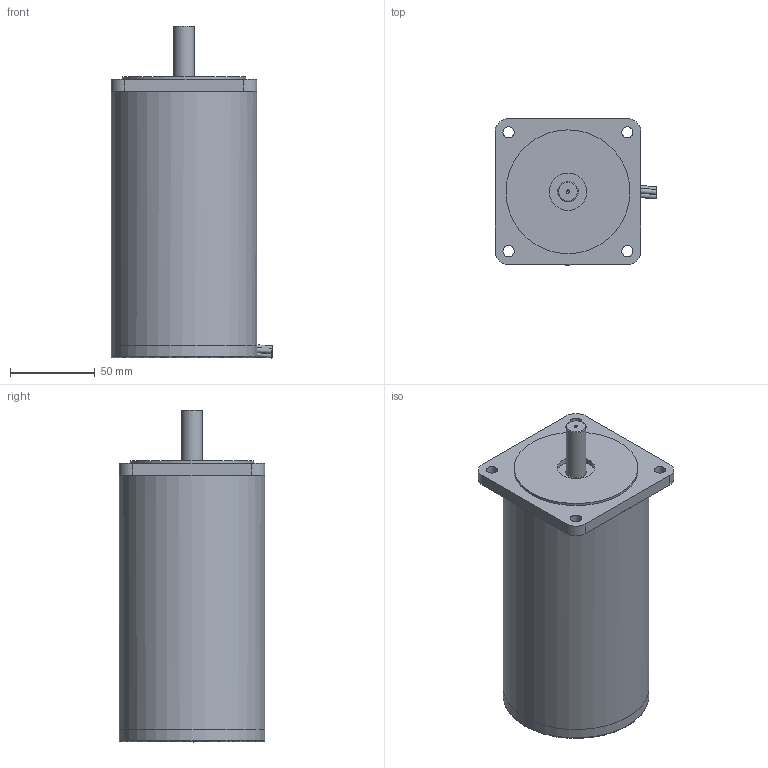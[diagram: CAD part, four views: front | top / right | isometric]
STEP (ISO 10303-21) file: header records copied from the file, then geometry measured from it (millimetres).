
FILE_DESCRIPTION((''),'2;1');
FILE_NAME('C:\Users\Reinhard\Documents\Inventor\Testschrittmotor\SM88\SM88.4L.stp','2012-11-12T21:05:57',('Reinhard'),(''),'Autodesk Inventor 2012','Autodesk Inventor 2012','');
FILE_SCHEMA(('CONFIG_CONTROL_DESIGN'));
Length unit declared in the file: millimetre
Products named in the file (1): SM88
Bounding box: 95.44 x 86 x 195.62 mm (x, y, z)
Volume: 160951 mm3; surface area: 112222.3 mm2
Topology: 1 solids, 1 shells, 63 faces, 156 edges, 93 vertices
Faces by surface type: cylinder 32, plane 28, cone 2, torus 1
Full cylindrical faces by diameter (mm): 2 x5, 6.6 x4, 12 x1, 22 x1, 73 x1, 78 x1, 82 x1, 86 x1
Entity records: 1937 total; most frequent: CARTESIAN_POINT 440, DIRECTION 321, ORIENTED_EDGE 270, AXIS2_PLACEMENT_3D 142, EDGE_CURVE 135, EDGE_LOOP 101, VERTEX_POINT 90, CIRCLE 72
